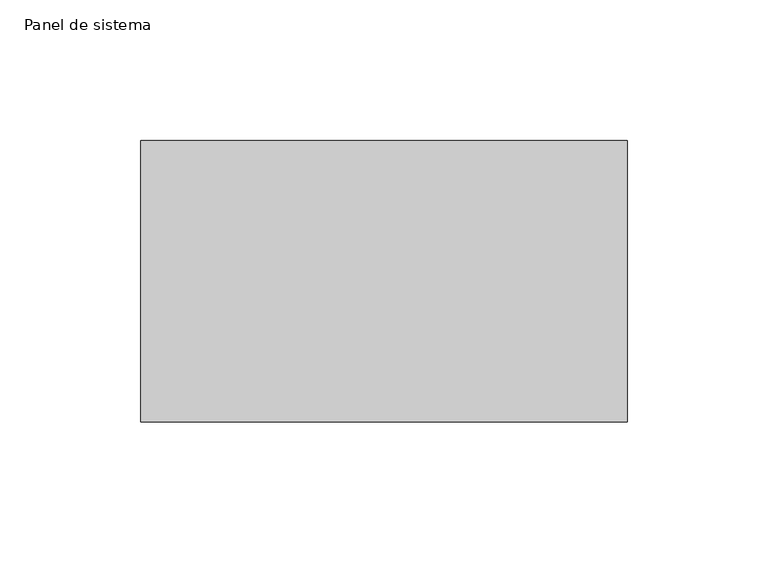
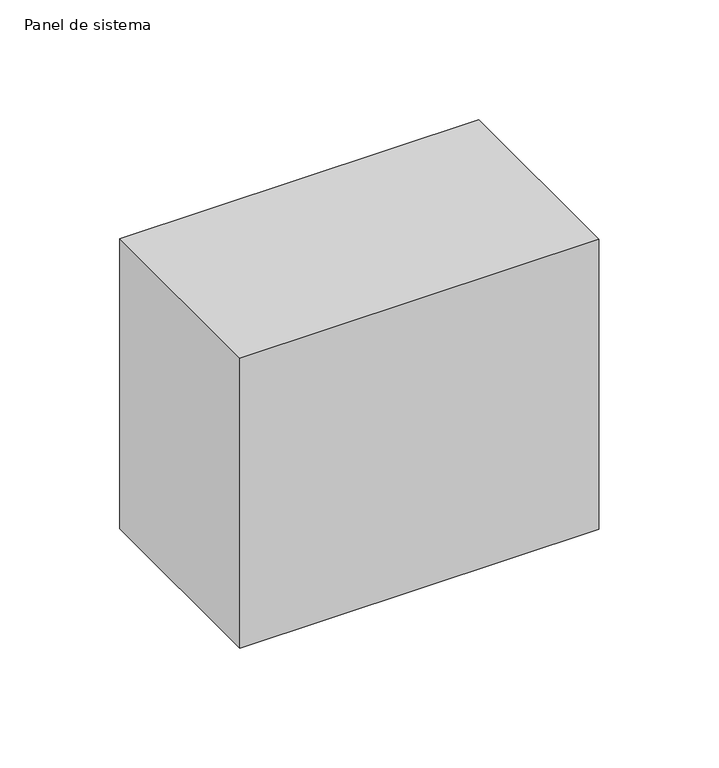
"""IFC4 building model written with IfcOpenShell, lengths in millimetres: plate geometry, Panel de sistema : PAVES."""

from ifc_helpers import new_model, si_unit, origin, origin_with_axes, place, context, project, spatial, polyline, outline, extrude, source, transform, mapped, element, save


def panel_de_sistema_f3d9d39c(model_context):
    return source(origin(), model_context, "Body", "SweptSolid", [
        extrude(outline(polyline([(86.3692571, -50.0), (-86.3692571, -50.0), (-86.3692571, 50.0), (86.3692571, 50.0), (86.3692571, -50.0)])), origin_with_axes(), (0.0, 0.0, 1.0), 147.5),
    ])


if __name__ == "__main__":
    model = new_model("IFC4")
    model_context = context("Model", 3, world=origin())
    ifc_project = project(units=[si_unit("LENGTHUNIT", "METRE", prefix="MILLI")], contexts=[model_context])
    site = spatial("IfcSite", under=ifc_project)
    building = spatial("IfcBuilding", under=site)
    placement = place(None, origin())
    panel_de_sistema_shape = panel_de_sistema_f3d9d39c(model_context)
    element("IfcPlate", 1, ObjectType="Panel de sistema : PAVES", at=placement, inside=building, context=model_context, shape_type="MappedRepresentation", body=[
        mapped(panel_de_sistema_shape, transform((0.0, 0.0, 0.0), x_axis=(1.0, 0.0, 0.0), y_axis=(0.0, 1.0, 0.0), z_axis=(0.0, 0.0, 1.0))),
    ])
    save(model, "model.ifc")
